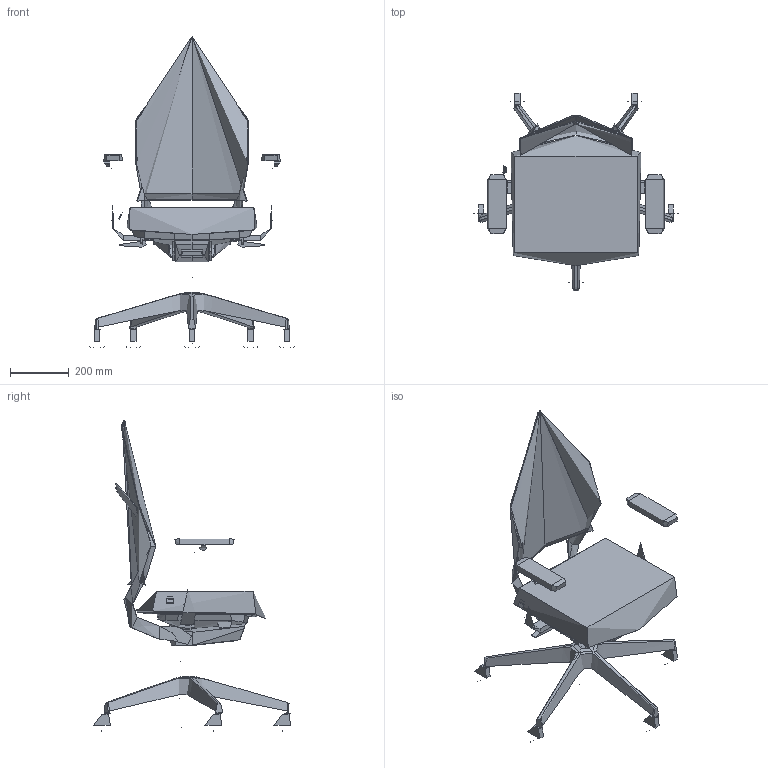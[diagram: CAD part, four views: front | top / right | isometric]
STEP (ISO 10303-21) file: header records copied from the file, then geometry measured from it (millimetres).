
FILE_DESCRIPTION(/* description */ (''),/* implementation_level */ '2;1');
FILE_NAME(/* name */ 'Arcus 240-SYAC,BR-235',/* time_stamp */ '2023-06-13T22:49:48+02:00',/* author */ (''),/* organization */ (''),/* preprocessor_version */ 'ST-DEVELOPER v16.5',/* originating_system */ 'Rhino 7.29',/* authorisation */ '');
FILE_SCHEMA (('CONFIG_CONTROL_DESIGN'));
Length unit declared in the file: millimetre
Products named in the file (1): Document
Bounding box: 696.72 x 672.99 x 1061.25 mm (x, y, z)
Volume: 1499993.7 mm3; surface area: 2170682.7 mm2
Topology: 15 solids, 64 shells, 612 faces, 1508 edges, 958 vertices
Faces by surface type: bspline 287, plane 229, cylinder 96
Full cylindrical faces by diameter (mm): 11 x5, 22.353 x1, 28 x1, 46 x1, 50 x1, 57 x1, 60 x4
Entity records: 59338 total; most frequent: CARTESIAN_POINT 49774, ORIENTED_EDGE 2779, EDGE_CURVE 1503, B_SPLINE_CURVE_WITH_KNOTS 1069, VERTEX_POINT 958, EDGE_LOOP 620, ADVANCED_FACE 612, FACE_OUTER_BOUND 612
